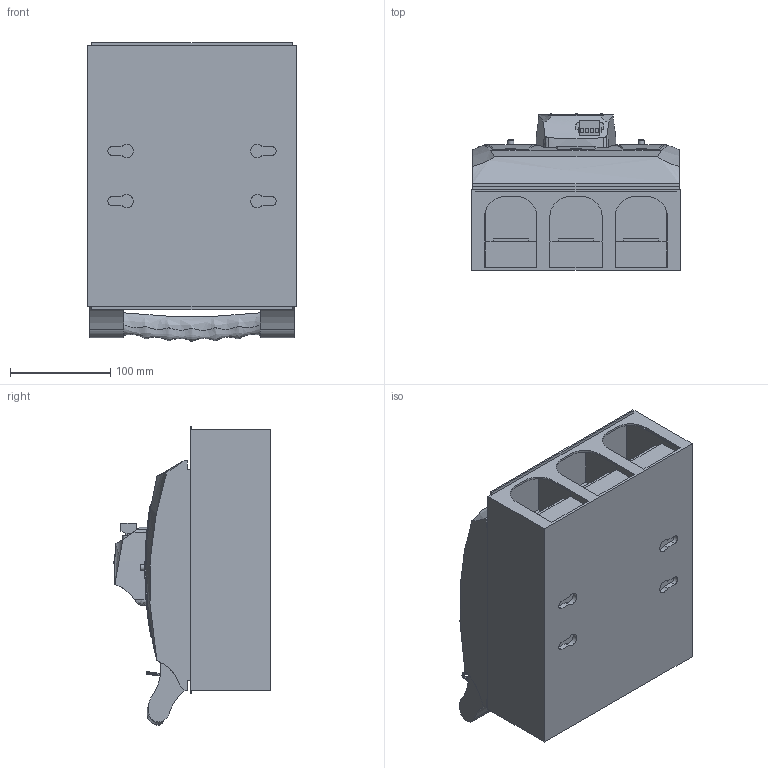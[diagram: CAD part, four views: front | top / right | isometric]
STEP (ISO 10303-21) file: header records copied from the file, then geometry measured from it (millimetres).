
FILE_DESCRIPTION(/* description */ (''),/* implementation_level */ '2;1');
FILE_NAME(/* name */ 'RBK 2 pro-XT - 63-811786-011.stp',/* time_stamp */ '2019-03-07T14:54:27+01:00',/* author */ (''),/* organization */ (''),/* preprocessor_version */ 'ST-DEVELOPER v16',/* originating_system */ 'SIEMENS PLM Software NX 10.0',/* authorisation */ '');
FILE_SCHEMA (('AUTOMOTIVE_DESIGN { 1 0 10303 214 3 1 1 1 }'));
Products named in the file (1): 710_1570FDB6zv1a
Bounding box: 208 x 156.09 x 297.76 mm (x, y, z)
Volume: 5357673.7 mm3; surface area: 321319.7 mm2
Topology: 1 solids, 1 shells, 1430 faces, 3958 edges, 2584 vertices
Faces by surface type: plane 967, bspline 205, cylinder 133, extrusion 112, cone 7, torus 6
Full cylindrical faces by diameter (mm): 6 x2, 11 x6
Entity records: 66460 total; most frequent: CARTESIAN_POINT 21764, ORIENTED_EDGE 7780, DIRECTION 7119, EDGE_CURVE 3890, AXIS2_PLACEMENT_3D 2682, VERTEX_POINT 2561, VECTOR 1755, LINE 1643
